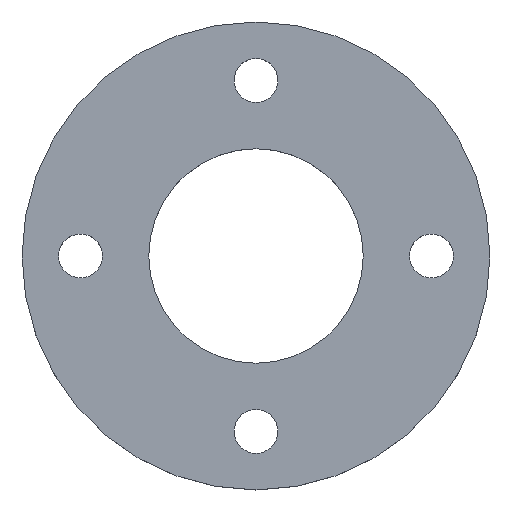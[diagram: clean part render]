
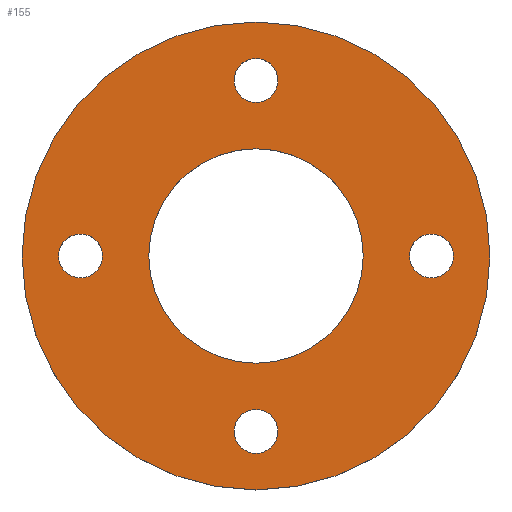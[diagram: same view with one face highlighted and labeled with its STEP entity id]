
A CAD part, top view. The second image highlights one B-rep face of the part: STEP entity #155.
In plain terms, the highlighted planar face has unit normal (0, 0, 1).
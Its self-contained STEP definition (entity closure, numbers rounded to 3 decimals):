
#15=FACE_BOUND('',#42,.T.);
#16=FACE_BOUND('',#43,.T.);
#17=FACE_BOUND('',#44,.T.);
#18=FACE_BOUND('',#45,.T.);
#19=FACE_BOUND('',#46,.T.);
#25=PLANE('',#198);
#33=FACE_OUTER_BOUND('',#41,.T.);
#41=EDGE_LOOP('',(#131));
#42=EDGE_LOOP('',(#132));
#43=EDGE_LOOP('',(#133));
#44=EDGE_LOOP('',(#134));
#45=EDGE_LOOP('',(#135));
#46=EDGE_LOOP('',(#136));
#66=CIRCLE('',#182,2.25);
#68=CIRCLE('',#185,2.25);
#70=CIRCLE('',#188,2.25);
#72=CIRCLE('',#191,2.25);
#73=CIRCLE('',#193,11.);
#75=CIRCLE('',#196,24.);
#78=VERTEX_POINT('',#252);
#80=VERTEX_POINT('',#258);
#82=VERTEX_POINT('',#264);
#84=VERTEX_POINT('',#270);
#85=VERTEX_POINT('',#274);
#87=VERTEX_POINT('',#280);
#91=EDGE_CURVE('',#78,#78,#66,.T.);
#94=EDGE_CURVE('',#80,#80,#68,.T.);
#97=EDGE_CURVE('',#82,#82,#70,.T.);
#100=EDGE_CURVE('',#84,#84,#72,.T.);
#101=EDGE_CURVE('',#85,#85,#73,.T.);
#104=EDGE_CURVE('',#87,#87,#75,.T.);
#131=ORIENTED_EDGE('',*,*,#104,.T.);
#132=ORIENTED_EDGE('',*,*,#91,.T.);
#133=ORIENTED_EDGE('',*,*,#94,.T.);
#134=ORIENTED_EDGE('',*,*,#97,.T.);
#135=ORIENTED_EDGE('',*,*,#100,.T.);
#136=ORIENTED_EDGE('',*,*,#101,.T.);
#155=ADVANCED_FACE('',(#33,#15,#16,#17,#18,#19),#25,.T.);
#182=AXIS2_PLACEMENT_3D('',#254,#207,#208);
#185=AXIS2_PLACEMENT_3D('',#260,#214,#215);
#188=AXIS2_PLACEMENT_3D('',#266,#221,#222);
#191=AXIS2_PLACEMENT_3D('',#272,#228,#229);
#193=AXIS2_PLACEMENT_3D('',#275,#232,#233);
#196=AXIS2_PLACEMENT_3D('',#281,#239,#240);
#198=AXIS2_PLACEMENT_3D('',#285,#244,#245);
#207=DIRECTION('center_axis',(0.,0.,-1.));
#208=DIRECTION('ref_axis',(0.,1.,0.));
#214=DIRECTION('center_axis',(0.,0.,-1.));
#215=DIRECTION('ref_axis',(1.,0.,0.));
#221=DIRECTION('center_axis',(0.,0.,-1.));
#222=DIRECTION('ref_axis',(0.,-1.,0.));
#228=DIRECTION('center_axis',(0.,0.,-1.));
#229=DIRECTION('ref_axis',(-1.,0.,0.));
#232=DIRECTION('center_axis',(0.,0.,-1.));
#233=DIRECTION('ref_axis',(-1.,0.,0.));
#239=DIRECTION('center_axis',(0.,0.,1.));
#240=DIRECTION('ref_axis',(1.,0.,0.));
#244=DIRECTION('center_axis',(0.,0.,1.));
#245=DIRECTION('ref_axis',(1.,0.,0.));
#252=CARTESIAN_POINT('',(-18.,-2.25,4.5));
#254=CARTESIAN_POINT('Origin',(-18.,0.,4.5));
#258=CARTESIAN_POINT('',(-2.25,18.,4.5));
#260=CARTESIAN_POINT('Origin',(0.,18.,4.5));
#264=CARTESIAN_POINT('',(18.,2.25,4.5));
#266=CARTESIAN_POINT('Origin',(18.,0.,4.5));
#270=CARTESIAN_POINT('',(2.25,-18.,4.5));
#272=CARTESIAN_POINT('Origin',(0.,-18.,4.5));
#274=CARTESIAN_POINT('',(11.,0.,4.5));
#275=CARTESIAN_POINT('Origin',(0.,0.,4.5));
#280=CARTESIAN_POINT('',(-24.,0.,4.5));
#281=CARTESIAN_POINT('Origin',(0.,0.,4.5));
#285=CARTESIAN_POINT('Origin',(0.,0.,4.5));
